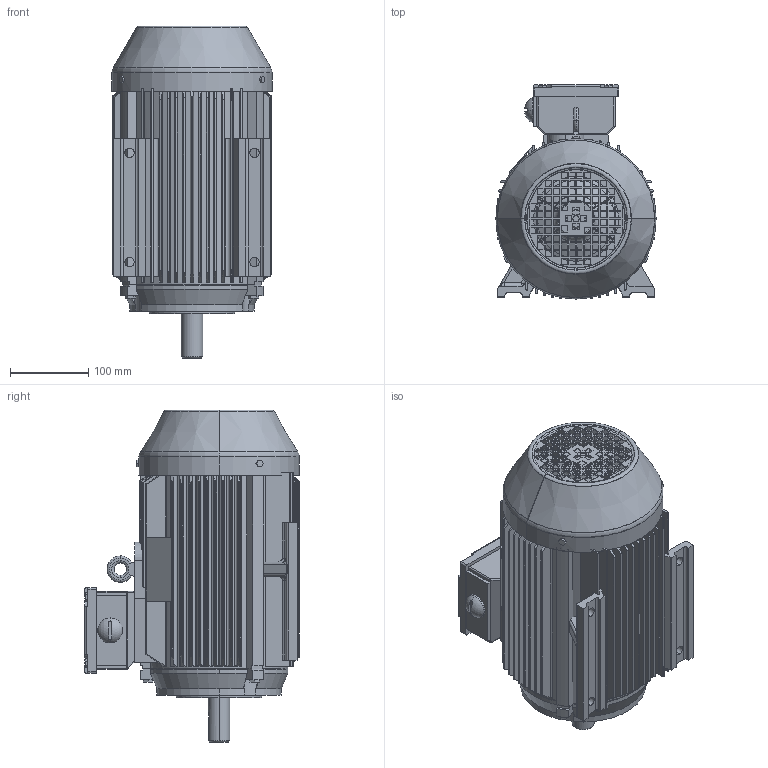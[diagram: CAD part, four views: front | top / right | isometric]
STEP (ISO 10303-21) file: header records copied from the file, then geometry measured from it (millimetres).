
FILE_DESCRIPTION (( 'STEP AP203' ), '1' );
FILE_NAME ('TE3-100L(GX) B14上.STEP', '2019-11-07T00:04:45', ( '微软用户' ), ( '微软中国' ), 'SwSTEP 2.0', 'SolidWorks 2012', '' );
FILE_SCHEMA (( 'CONFIG_CONTROL_DESIGN' ));
Length unit declared in the file: millimetre
Products named in the file (1): TE3-100L(GX) B14奻
Bounding box: 205.4 x 274.7 x 425.49 mm (x, y, z)
Volume: 3872330.1 mm3; surface area: 1034258.2 mm2
Topology: 6 solids, 7 shells, 1341 faces, 3658 edges, 2388 vertices
Faces by surface type: plane 831, cylinder 327, cone 111, torus 56, bspline 10, sphere 6
Entity records: 45433 total; most frequent: CARTESIAN_POINT 11591, ORIENTED_EDGE 7284, DIRECTION 6430, EDGE_CURVE 3642, VECTOR 2460, LINE 2460, VERTEX_POINT 2388, AXIS2_PLACEMENT_3D 1985
